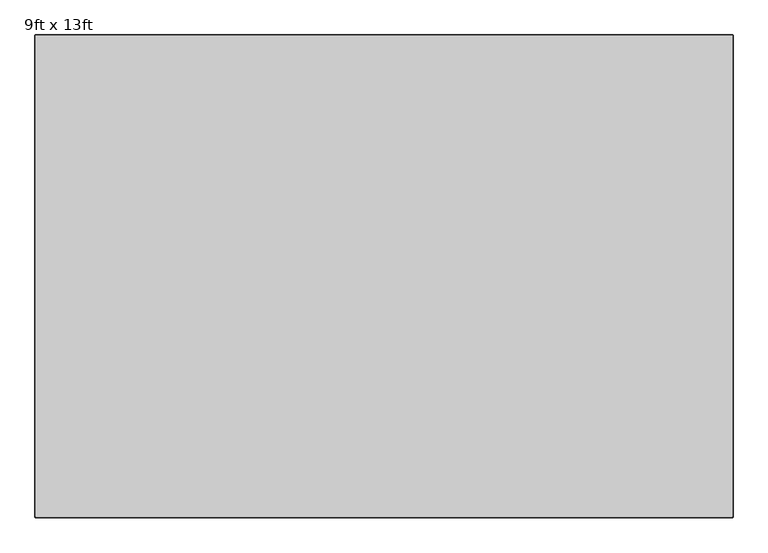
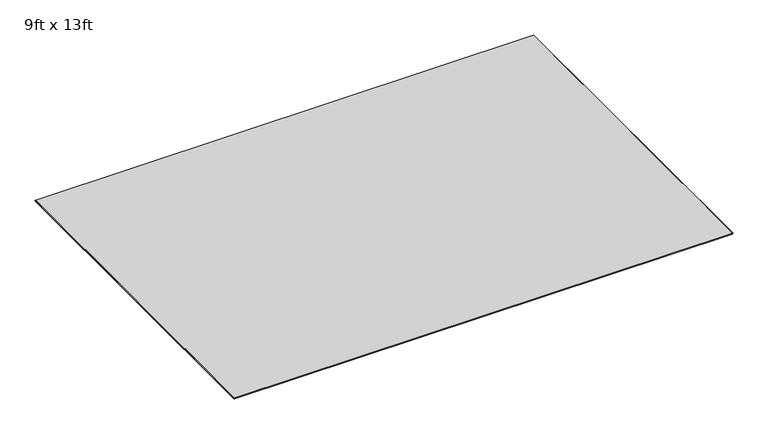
"""IFC4 building model written with IfcOpenShell, lengths in millimetres: furniture geometry, Coalesse_AM_Accessory_Rug_Nanimarquina_Diagonal : 9ft x 13ft."""

from ifc_helpers import new_model, si_unit, frame, origin, place, context, project, spatial, polyline, circle_curve, source, transform, mapped, element, save
from ifc_brep_helpers import plane_surface, cylinder_surface, revolved_surface, advanced_brep


def furniture_9ft_x_13ft_9fe98341(model_context):
    return source(origin(), model_context, "Body", "AdvancedBrep", [
        advanced_brep(
        [(-658.8809829, 798.9249977, 6.9850002), (-661.4265124, 796.3794681, 6.9850002), (-661.4265124, -1936.6550023, 6.9850002), (-658.8865124, -1939.1950023, 6.9850002), (3293.3533713, -1939.1950023, 6.9850002), (3295.8933713, -1936.6550023, 6.9850002), (3295.8933713, 796.3849977, 6.9850002), (3293.3533713, 798.9249977, 6.9850002), (-663.9665124, 796.3794681, 4.4450002), (-658.8809829, 801.4649977, 4.4450002), (-658.8809829, 801.4649977, 0.0), (-663.9665124, 796.3794681, 0.0), (-663.9665124, -1936.6550023, 0.0), (-663.9665124, -1936.6550023, 4.4450002), (-658.8865124, -1941.7350023, 0.0), (-658.8865124, -1941.7350023, 4.4450002), (3293.3533713, -1941.7350023, 0.0), (3293.3533713, -1941.7350023, 4.4450002), (3298.4333713, -1936.6550023, 0.0), (3298.4333713, -1936.6550023, 4.4450002), (3298.4333713, 796.3849977, 0.0), (3298.4333713, 796.3849977, 4.4450002), (3293.3533713, 801.4649977, 0.0), (3293.3533713, 801.4649977, 4.4450002)],
        [
            (0, 1, circle_curve(frame((-658.8809829, 796.3794681, 6.9850002), z_axis=(0.0, 0.0, 1.0), x_axis=(0.0, 1.0, 0.0)), 2.5455296)),
            (1, 2),
            (2, 3, circle_curve(frame((-658.8865124, -1936.6550023, 6.9850002), z_axis=(0.0, 0.0, 1.0), x_axis=(-1.0, 0.0, 0.0)), 2.54)),
            (3, 4),
            (4, 5, circle_curve(frame((3293.3533713, -1936.6550023, 6.9850002), z_axis=(0.0, 0.0, 1.0), x_axis=(0.0, -1.0, 0.0)), 2.54)),
            (5, 6),
            (6, 7, circle_curve(frame((3293.3533713, 796.3849977, 6.9850002), z_axis=(0.0, 0.0, 1.0), x_axis=(1.0, 0.0, 0.0)), 2.54)),
            (7, 0),
            (8, 9, circle_curve(frame((-658.8809829, 796.3794681, 4.4450002), z_axis=(0.0, 0.0, -1.0), x_axis=(0.0, 1.0, 0.0)), 5.0855296)),
            (9, 10),
            (10, 11, circle_curve(frame((-658.8809829, 796.3794681, 0.0), z_axis=(0.0, 0.0, 1.0), x_axis=(0.0, 1.0, 0.0)), 5.0855296)),
            (11, 8),
            (8, 1),
            (0, 9),
            (11, 12),
            (12, 13),
            (13, 8),
            (13, 2),
            (12, 14, circle_curve(frame((-658.8865124, -1936.6550023, 0.0), z_axis=(0.0, 0.0, 1.0), x_axis=(-1.0, 0.0, 0.0)), 5.08)),
            (14, 15),
            (15, 13, circle_curve(frame((-658.8865124, -1936.6550023, 4.4450002), z_axis=(0.0, 0.0, -1.0), x_axis=(-1.0, 0.0, 0.0)), 5.08)),
            (15, 3),
            (14, 16),
            (16, 17),
            (17, 15),
            (17, 4),
            (16, 18, circle_curve(frame((3293.3533713, -1936.6550023, 0.0), z_axis=(0.0, 0.0, 1.0), x_axis=(0.0, -1.0, 0.0)), 5.08)),
            (18, 19),
            (19, 17, circle_curve(frame((3293.3533713, -1936.6550023, 4.4450002), z_axis=(0.0, 0.0, -1.0), x_axis=(0.0, -1.0, 0.0)), 5.08)),
            (19, 5),
            (18, 20),
            (20, 21),
            (21, 19),
            (21, 6),
            (20, 22, circle_curve(frame((3293.3533713, 796.3849977, 0.0), z_axis=(0.0, 0.0, 1.0), x_axis=(1.0, 0.0, 0.0)), 5.08)),
            (22, 23),
            (23, 21, circle_curve(frame((3293.3533713, 796.3849977, 4.4450002), z_axis=(0.0, 0.0, -1.0), x_axis=(1.0, 0.0, 0.0)), 5.08)),
            (23, 7),
            (10, 22),
            (9, 23),
        ],
        [
            plane_surface(frame((-658.8809829, 798.9249977, 6.9850002), z_axis=(0.0, 0.0, 1.0), x_axis=(-1.0, 0.0, 0.0))),
            cylinder_surface(frame((-658.8809829, 796.3794681, 0.0), z_axis=(0.0, 0.0, 1.0), x_axis=(0.0, 1.0, 0.0)), 5.0855296),
            revolved_surface(polyline([(-658.8809829, 801.4649977, 4.4450002), (-658.8809829, 798.9249977, 6.9850002)]), (-658.8809829, 796.3794681, 0.0), (0.0, 0.0, 1.0)),
            plane_surface(frame((-663.9665124, 796.3794681, 0.0), z_axis=(-1.0, 0.0, 0.0), x_axis=(0.0, -1.0, 0.0))),
            plane_surface(frame((-663.9665124, 796.3794681, 4.4450002), z_axis=(-0.7071067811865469, 0.0, 0.7071067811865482), x_axis=(0.0, -1.0, 0.0))),
            cylinder_surface(frame((-658.8865124, -1936.6550023, 0.0), z_axis=(0.0, 0.0, 1.0), x_axis=(-1.0, 0.0, 0.0)), 5.08),
            revolved_surface(polyline([(-663.9665124, -1936.6550023, 4.4450002), (-661.4265124, -1936.6550023, 6.9850002)]), (-658.8865124, -1936.6550023, 0.0), (0.0, 0.0, 1.0)),
            plane_surface(frame((-658.8865124, -1941.7350023, 0.0), z_axis=(0.0, -1.0, 0.0), x_axis=(1.0, 0.0, 0.0))),
            plane_surface(frame((-658.8865124, -1941.7350023, 4.4450002), z_axis=(0.0, -0.7071067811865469, 0.7071067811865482), x_axis=(1.0, 0.0, 0.0))),
            cylinder_surface(frame((3293.3533713, -1936.6550023, 0.0), z_axis=(0.0, 0.0, 1.0), x_axis=(0.0, -1.0, 0.0)), 5.08),
            revolved_surface(polyline([(3293.3533713, -1941.7350023, 4.4450002), (3293.3533713, -1939.1950023, 6.9850002)]), (3293.3533713, -1936.6550023, 0.0), (0.0, 0.0, 1.0)),
            plane_surface(frame((3298.4333713, -1936.6550023, 0.0), z_axis=(1.0, 0.0, 0.0), x_axis=(0.0, 1.0, 0.0))),
            plane_surface(frame((3298.4333713, -1936.6550023, 4.4450002), z_axis=(0.7071067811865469, 0.0, 0.7071067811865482), x_axis=(0.0, 1.0, 0.0))),
            cylinder_surface(frame((3293.3533713, 796.3849977, 0.0), z_axis=(0.0, 0.0, 1.0), x_axis=(1.0, 0.0, 0.0)), 5.08),
            revolved_surface(polyline([(3298.4333713, 796.3849977, 4.4450002), (3295.8933713, 796.3849977, 6.9850002)]), (3293.3533713, 796.3849977, 0.0), (0.0, 0.0, 1.0)),
            plane_surface(frame((3293.3533713, 798.9249977, 0.0), z_axis=(0.0, 0.0, -1.0), x_axis=(-1.0, 0.0, 0.0))),
            plane_surface(frame((3293.3533713, 801.4649977, 0.0), z_axis=(0.0, 1.0, 0.0), x_axis=(-1.0, 0.0, 0.0))),
            plane_surface(frame((3293.3533713, 801.4649977, 4.4450002), z_axis=(0.0, 0.7071067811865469, 0.7071067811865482), x_axis=(-1.0, 0.0, 0.0))),
        ],
        [
            (0, [[1, 2, 3, 4, 5, 6, 7, 8]]),
            (1, [[9, 10, 11, 12]]),
            (2, [[-9, 13, -1, 14]]),
            (3, [[-12, 15, 16, 17]]),
            (4, [[-13, -17, 18, -2]]),
            (5, [[-16, 19, 20, 21]]),
            (6, [[-18, -21, 22, -3]]),
            (7, [[-20, 23, 24, 25]]),
            (8, [[-22, -25, 26, -4]]),
            (9, [[-24, 27, 28, 29]]),
            (10, [[-26, -29, 30, -5]]),
            (11, [[-28, 31, 32, 33]]),
            (12, [[-30, -33, 34, -6]]),
            (13, [[-32, 35, 36, 37]]),
            (14, [[-34, -37, 38, -7]]),
            (15, [[-11, 39, -35, -31, -27, -23, -19, -15]]),
            (16, [[-10, 40, -36, -39]]),
            (17, [[-14, -8, -38, -40]]),
        ],
    ),
    ])


if __name__ == "__main__":
    model = new_model("IFC4")
    model_context = context("Model", 3, world=origin())
    ifc_project = project(units=[si_unit("LENGTHUNIT", "METRE", prefix="MILLI")], contexts=[model_context])
    site = spatial("IfcSite", under=ifc_project)
    building = spatial("IfcBuilding", under=site)
    placement = place(None, origin())
    furniture_9ft_x_13ft_shape = furniture_9ft_x_13ft_9fe98341(model_context)
    element("IfcFurniture", 1, ObjectType="Coalesse_AM_Accessory_Rug_Nanimarquina_Diagonal : 9ft x 13ft", at=placement, inside=building, context=model_context, shape_type="MappedRepresentation", body=[
        mapped(furniture_9ft_x_13ft_shape, transform((0.0, 0.0, 0.0), x_axis=(1.0, 0.0, 0.0), y_axis=(0.0, 1.0, 0.0), z_axis=(0.0, 0.0, 1.0))),
    ])
    save(model, "model.ifc")
